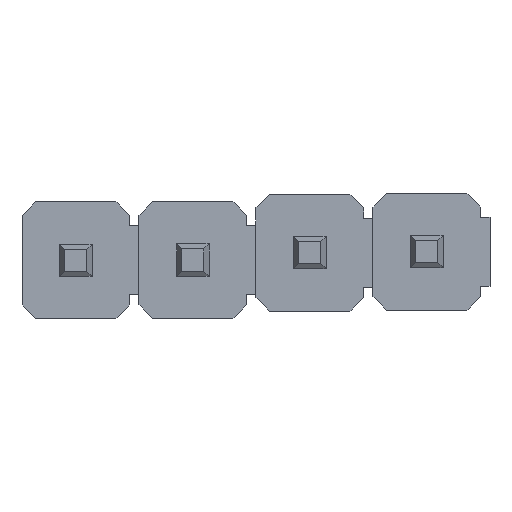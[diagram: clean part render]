
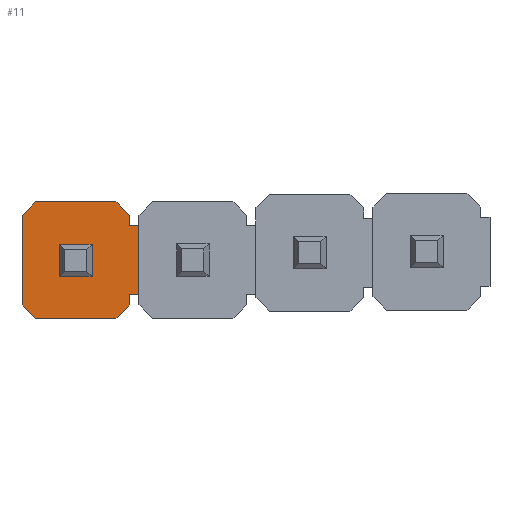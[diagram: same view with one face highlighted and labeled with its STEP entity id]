
A CAD part, front view. The second image highlights one B-rep face of the part: STEP entity #11.
In plain terms, the highlighted planar face has unit normal (0, -1, 0).
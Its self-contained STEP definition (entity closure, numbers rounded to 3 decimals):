
#1 = ORIENTED_EDGE ( 'NONE', *, *, #420, .F. ) ;
#4 = CARTESIAN_POINT ( 'NONE',  ( 0.35, 0., -0.35 ) ) ;
#6 = EDGE_CURVE ( 'NONE', #1067, #175, #699, .T. ) ;
#11 = ADVANCED_FACE ( 'NONE', ( #89, #490 ), #228, .F. ) ;
#13 = VERTEX_POINT ( 'NONE', #130 ) ;
#15 = LINE ( 'NONE', #849, #448 ) ;
#18 = LINE ( 'NONE', #1081, #634 ) ;
#23 = CARTESIAN_POINT ( 'NONE',  ( 0.35, 0., 0. ) ) ;
#26 = CARTESIAN_POINT ( 'NONE',  ( 1.17, 0., 0.75 ) ) ;
#34 = LINE ( 'NONE', #47, #1011 ) ;
#42 = ORIENTED_EDGE ( 'NONE', *, *, #975, .T. ) ;
#47 = CARTESIAN_POINT ( 'NONE',  ( 0., 0., -1.27 ) ) ;
#57 = DIRECTION ( 'NONE',  ( -1., 0., 0. ) ) ;
#58 = CARTESIAN_POINT ( 'NONE',  ( 1.37, 0., 0.75 ) ) ;
#59 = EDGE_CURVE ( 'NONE', #202, #13, #302, .T. ) ;
#61 = DIRECTION ( 'NONE',  ( -1., 0., 0. ) ) ;
#68 = DIRECTION ( 'NONE',  ( 0.707, 0., -0.707 ) ) ;
#73 = EDGE_CURVE ( 'NONE', #173, #1067, #317, .T. ) ;
#81 = EDGE_LOOP ( 'NONE', ( #163, #1, #214, #754, #919, #42, #112, #231, #113, #803, #552, #857 ) ) ;
#89 = FACE_BOUND ( 'NONE', #497, .T. ) ;
#101 = CARTESIAN_POINT ( 'NONE',  ( 0., 0., 0.75 ) ) ;
#112 = ORIENTED_EDGE ( 'NONE', *, *, #951, .T. ) ;
#113 = ORIENTED_EDGE ( 'NONE', *, *, #73, .T. ) ;
#117 = DIRECTION ( 'NONE',  ( 0., 0., -1. ) ) ;
#124 = ORIENTED_EDGE ( 'NONE', *, *, #675, .T. ) ;
#126 = VECTOR ( 'NONE', #139, 1000. ) ;
#128 = DIRECTION ( 'NONE',  ( 0., 1., 0. ) ) ;
#130 = CARTESIAN_POINT ( 'NONE',  ( 1.37, 0., -0.75 ) ) ;
#134 = CARTESIAN_POINT ( 'NONE',  ( 0., 0., 1.27 ) ) ;
#136 = VERTEX_POINT ( 'NONE', #484 ) ;
#138 = LINE ( 'NONE', #1060, #681 ) ;
#139 = DIRECTION ( 'NONE',  ( 0., 0., -1. ) ) ;
#142 = DIRECTION ( 'NONE',  ( 0., 0., 1. ) ) ;
#145 = DIRECTION ( 'NONE',  ( -1., 0., 0. ) ) ;
#159 = LINE ( 'NONE', #291, #562 ) ;
#163 = ORIENTED_EDGE ( 'NONE', *, *, #241, .F. ) ;
#173 = VERTEX_POINT ( 'NONE', #723 ) ;
#175 = VERTEX_POINT ( 'NONE', #387 ) ;
#188 = EDGE_CURVE ( 'NONE', #608, #444, #906, .T. ) ;
#202 = VERTEX_POINT ( 'NONE', #58 ) ;
#209 = DIRECTION ( 'NONE',  ( -1., 0., 0. ) ) ;
#214 = ORIENTED_EDGE ( 'NONE', *, *, #59, .F. ) ;
#222 = CARTESIAN_POINT ( 'NONE',  ( 1.07, 0., 1.07 ) ) ;
#223 = DIRECTION ( 'NONE',  ( 0., 0., -1. ) ) ;
#225 = DIRECTION ( 'NONE',  ( -0.707, 0., -0.707 ) ) ;
#228 = PLANE ( 'NONE',  #1042 ) ;
#231 = ORIENTED_EDGE ( 'NONE', *, *, #984, .T. ) ;
#232 = VERTEX_POINT ( 'NONE', #806 ) ;
#241 = EDGE_CURVE ( 'NONE', #879, #606, #138, .T. ) ;
#245 = CARTESIAN_POINT ( 'NONE',  ( -0.35, 0., -0.35 ) ) ;
#246 = VECTOR ( 'NONE', #225, 1000. ) ;
#250 = VERTEX_POINT ( 'NONE', #493 ) ;
#266 = LINE ( 'NONE', #101, #316 ) ;
#268 = VECTOR ( 'NONE', #910, 1000. ) ;
#289 = EDGE_CURVE ( 'NONE', #250, #175, #34, .T. ) ;
#290 = VECTOR ( 'NONE', #68, 1000. ) ;
#291 = CARTESIAN_POINT ( 'NONE',  ( 1.17, 0., 0. ) ) ;
#302 = LINE ( 'NONE', #824, #268 ) ;
#307 = LINE ( 'NONE', #901, #602 ) ;
#310 = CARTESIAN_POINT ( 'NONE',  ( -1.17, 0., 0. ) ) ;
#316 = VECTOR ( 'NONE', #1022, 1000. ) ;
#317 = LINE ( 'NONE', #310, #126 ) ;
#333 = DIRECTION ( 'NONE',  ( -0.707, 0., -0.707 ) ) ;
#375 = VECTOR ( 'NONE', #789, 1000. ) ;
#378 = VERTEX_POINT ( 'NONE', #837 ) ;
#387 = CARTESIAN_POINT ( 'NONE',  ( -0.87, 0., -1.27 ) ) ;
#389 = CARTESIAN_POINT ( 'NONE',  ( 0., 0., -0.35 ) ) ;
#420 = EDGE_CURVE ( 'NONE', #13, #879, #18, .T. ) ;
#444 = VERTEX_POINT ( 'NONE', #245 ) ;
#448 = VECTOR ( 'NONE', #333, 1000. ) ;
#453 = VERTEX_POINT ( 'NONE', #660 ) ;
#457 = VECTOR ( 'NONE', #209, 1000. ) ;
#464 = VECTOR ( 'NONE', #61, 1000. ) ;
#476 = CARTESIAN_POINT ( 'NONE',  ( 1.17, 0., -0.75 ) ) ;
#481 = EDGE_CURVE ( 'NONE', #202, #781, #266, .T. ) ;
#483 = LINE ( 'NONE', #1073, #246 ) ;
#484 = CARTESIAN_POINT ( 'NONE',  ( -0.35, 0., 0.35 ) ) ;
#490 = FACE_OUTER_BOUND ( 'NONE', #81, .T. ) ;
#493 = CARTESIAN_POINT ( 'NONE',  ( 0.87, 0., -1.27 ) ) ;
#496 = CARTESIAN_POINT ( 'NONE',  ( -1.07, 0., -1.07 ) ) ;
#497 = EDGE_LOOP ( 'NONE', ( #708, #124, #795, #579 ) ) ;
#515 = CARTESIAN_POINT ( 'NONE',  ( 1.17, 0., -0.97 ) ) ;
#552 = ORIENTED_EDGE ( 'NONE', *, *, #289, .F. ) ;
#562 = VECTOR ( 'NONE', #892, 1000. ) ;
#579 = ORIENTED_EDGE ( 'NONE', *, *, #808, .F. ) ;
#580 = EDGE_CURVE ( 'NONE', #606, #250, #15, .T. ) ;
#602 = VECTOR ( 'NONE', #57, 1000. ) ;
#606 = VERTEX_POINT ( 'NONE', #515 ) ;
#608 = VERTEX_POINT ( 'NONE', #4 ) ;
#634 = VECTOR ( 'NONE', #145, 1000. ) ;
#642 = VECTOR ( 'NONE', #117, 1000. ) ;
#660 = CARTESIAN_POINT ( 'NONE',  ( -0.87, 0., 1.27 ) ) ;
#675 = EDGE_CURVE ( 'NONE', #232, #608, #710, .T. ) ;
#681 = VECTOR ( 'NONE', #223, 1000. ) ;
#699 = LINE ( 'NONE', #496, #290 ) ;
#704 = VECTOR ( 'NONE', #817, 1000. ) ;
#708 = ORIENTED_EDGE ( 'NONE', *, *, #995, .F. ) ;
#710 = LINE ( 'NONE', #23, #375 ) ;
#723 = CARTESIAN_POINT ( 'NONE',  ( -1.17, 0., 0.97 ) ) ;
#754 = ORIENTED_EDGE ( 'NONE', *, *, #481, .T. ) ;
#781 = VERTEX_POINT ( 'NONE', #26 ) ;
#789 = DIRECTION ( 'NONE',  ( 0., 0., -1. ) ) ;
#795 = ORIENTED_EDGE ( 'NONE', *, *, #188, .T. ) ;
#803 = ORIENTED_EDGE ( 'NONE', *, *, #6, .T. ) ;
#806 = CARTESIAN_POINT ( 'NONE',  ( 0.35, 0., 0.35 ) ) ;
#808 = EDGE_CURVE ( 'NONE', #136, #444, #850, .T. ) ;
#810 = CARTESIAN_POINT ( 'NONE',  ( -1.17, 0., -0.97 ) ) ;
#817 = DIRECTION ( 'NONE',  ( -0.707, 0., 0.707 ) ) ;
#824 = CARTESIAN_POINT ( 'NONE',  ( 1.37, 0., 0. ) ) ;
#829 = CARTESIAN_POINT ( 'NONE',  ( 0., 0., 0. ) ) ;
#837 = CARTESIAN_POINT ( 'NONE',  ( 1.17, 0., 0.97 ) ) ;
#849 = CARTESIAN_POINT ( 'NONE',  ( 1.07, 0., -1.07 ) ) ;
#850 = LINE ( 'NONE', #875, #642 ) ;
#857 = ORIENTED_EDGE ( 'NONE', *, *, #580, .F. ) ;
#875 = CARTESIAN_POINT ( 'NONE',  ( -0.35, 0., 0. ) ) ;
#879 = VERTEX_POINT ( 'NONE', #476 ) ;
#892 = DIRECTION ( 'NONE',  ( 0., 0., -1. ) ) ;
#897 = DIRECTION ( 'NONE',  ( -1., 0., 0. ) ) ;
#901 = CARTESIAN_POINT ( 'NONE',  ( 0., 0., 0.35 ) ) ;
#906 = LINE ( 'NONE', #389, #464 ) ;
#910 = DIRECTION ( 'NONE',  ( 0., 0., -1. ) ) ;
#919 = ORIENTED_EDGE ( 'NONE', *, *, #940, .F. ) ;
#940 = EDGE_CURVE ( 'NONE', #378, #781, #159, .T. ) ;
#951 = EDGE_CURVE ( 'NONE', #1051, #453, #1059, .T. ) ;
#958 = LINE ( 'NONE', #222, #704 ) ;
#975 = EDGE_CURVE ( 'NONE', #378, #1051, #958, .T. ) ;
#984 = EDGE_CURVE ( 'NONE', #453, #173, #483, .T. ) ;
#995 = EDGE_CURVE ( 'NONE', #232, #136, #307, .T. ) ;
#1011 = VECTOR ( 'NONE', #897, 1000. ) ;
#1022 = DIRECTION ( 'NONE',  ( -1., 0., 0. ) ) ;
#1042 = AXIS2_PLACEMENT_3D ( 'NONE', #829, #128, #142 ) ;
#1051 = VERTEX_POINT ( 'NONE', #1068 ) ;
#1059 = LINE ( 'NONE', #134, #457 ) ;
#1060 = CARTESIAN_POINT ( 'NONE',  ( 1.17, 0., 0. ) ) ;
#1067 = VERTEX_POINT ( 'NONE', #810 ) ;
#1068 = CARTESIAN_POINT ( 'NONE',  ( 0.87, 0., 1.27 ) ) ;
#1073 = CARTESIAN_POINT ( 'NONE',  ( -1.07, 0., 1.07 ) ) ;
#1081 = CARTESIAN_POINT ( 'NONE',  ( 0., 0., -0.75 ) ) ;
